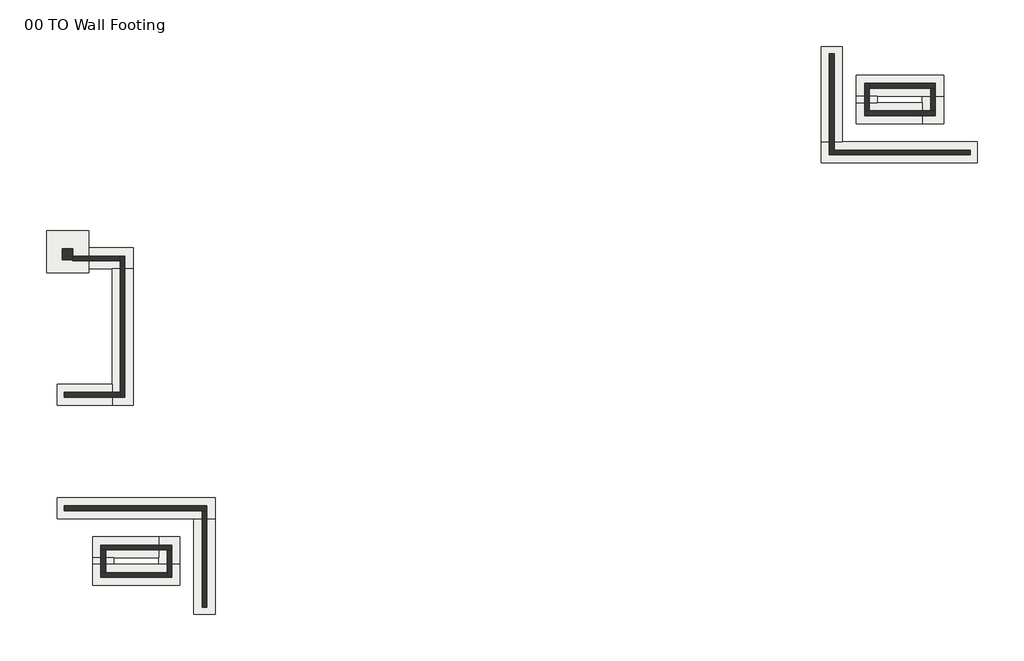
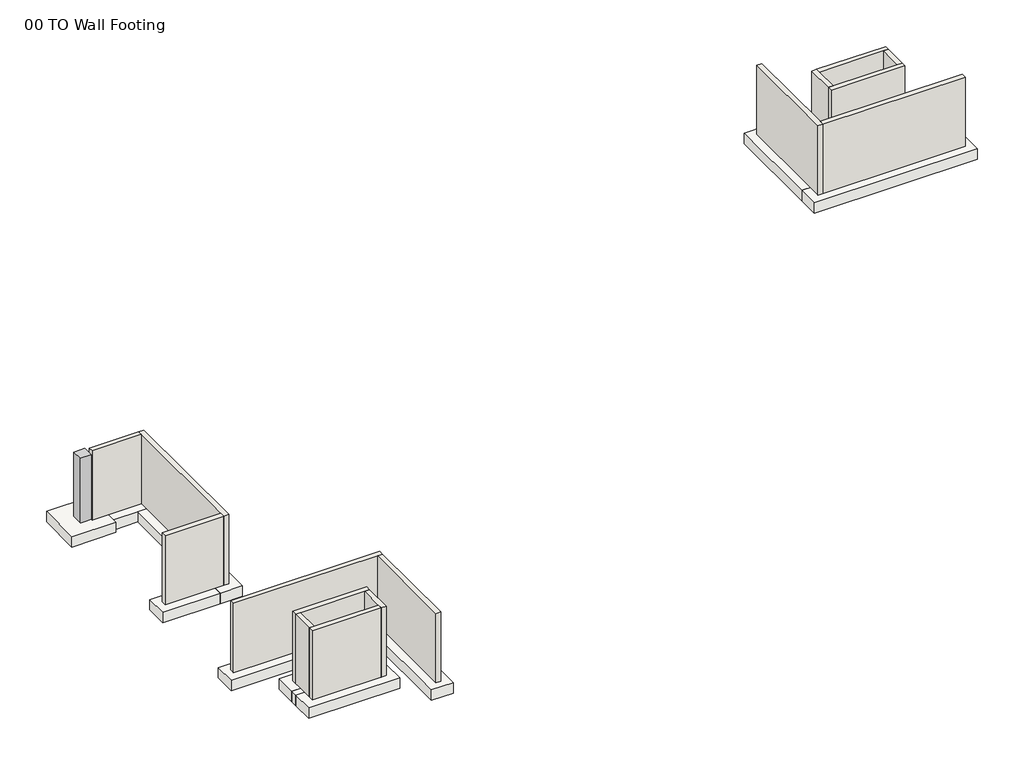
# One storey: 15 footings, 15 walls, 1 column, 1 slab.
"""IFC4 building model written with IfcOpenShell, lengths in millimetres."""

from ifc_helpers import new_model, si_unit, frame, origin, place, context, project, spatial, polyline, outline, extrude, faceted_brep, element, save

model = new_model("IFC4")

# Units and contexts
model_context = context("Model", 3, world=origin())
ifc_project = project(units=[si_unit("LENGTHUNIT", "METRE", prefix="MILLI")], contexts=[model_context])

# Site, building, storey
site = spatial("IfcSite", under=ifc_project)
building = spatial("IfcBuilding", under=site)
storey = spatial("IfcBuildingStorey", under=building, Name="00 TO Wall Footing", Elevation=-3048.0)

# Column
placement = place(None, origin())
element("IfcColumn", 1, ObjectType="Concrete-Rectangular-Column : CIP Column_C2_18\" x 18\"", at=placement, inside=storey, context=model_context, shape_type="Brep", body=[
    faceted_brep([(-19040.1273699, 588.7746638, -3048.0), (-19040.1273699, 283.9746638, -3048.0), (-19040.1273699, 131.5746638, -3048.0), (-19497.3273699, 131.5746638, -3048.0), (-19497.3273699, 588.7746638, -3048.0), (-19040.1273699, 588.7746638, -203.2), (-19040.1273699, 131.5746638, -203.2), (-19497.3273699, 131.5746638, -203.2), (-19497.3273699, 588.7746638, -203.2)], [[[0, 1, 2, 3, 4]], [[2, 1, 0, 5, 6]], [[3, 2, 6, 7]], [[4, 3, 7, 8]], [[0, 4, 8, 5]], [[6, 5, 8, 7]]]),
])

# Footings
element("IfcFooting", 2, ObjectType="Strip Footing_CIP_3' x 1'6''", at=placement, inside=storey, context=model_context, shape_type="Brep", body=[
    faceted_brep([(-16423.9273699, -274.8253362, -3048.0), (-16423.9273699, 639.5746638, -3048.0), (-18354.3273699, 639.5746638, -3048.0), (-18354.3273699, -274.8253362, -3048.0), (-17338.3273699, -274.8253362, -3048.0), (-16423.9273699, 639.5746638, -3505.2), (-18354.3273699, 639.5746638, -3505.2), (-16423.9273699, -274.8253362, -3505.2), (-17338.3273699, -274.8253362, -3505.2), (-18354.3273699, -274.8253362, -3505.2)], [[[0, 1, 2, 3, 4]], [[1, 5, 6, 2]], [[5, 7, 8, 9, 6]], [[7, 0, 4, 3, 9, 8]], [[3, 2, 6, 9]], [[1, 0, 7, 5]]]),
])
element("IfcFooting", 3, ObjectType="Strip Footing_CIP_3' x 1'6''", at=placement, inside=storey, context=model_context, shape_type="Brep", body=[
    faceted_brep([(-17338.3273699, -6193.0253362, -3048.0), (-16423.9273699, -6193.0253362, -3048.0), (-16423.9273699, -274.8253362, -3048.0), (-17338.3273699, -274.8253362, -3048.0), (-17338.3273699, -5278.6253362, -3048.0), (-16423.9273699, -6193.0253362, -3505.2), (-16423.9273699, -274.8253362, -3505.2), (-17338.3273699, -6193.0253362, -3505.2), (-17338.3273699, -5278.6253362, -3505.2), (-17338.3273699, -274.8253362, -3505.2)], [[[0, 1, 2, 3, 4]], [[1, 5, 6, 2]], [[5, 7, 8, 9, 6]], [[7, 0, 4, 3, 9, 8]], [[3, 2, 6, 9]], [[1, 0, 7, 5]]]),
])
element("IfcFooting", 4, ObjectType="Strip Footing_CIP_3' x 1'6''", at=placement, inside=storey, context=model_context, shape_type="SweptSolid", body=[
    extrude(outline(polyline([(-19725.9273699, -6193.0253362), (-19725.9273699, -5278.6253362), (-17338.3273699, -5278.6253362), (-17338.3273699, -6193.0253362), (-19725.9273699, -6193.0253362)])), frame((0.0, 0.0, -3505.2), z_axis=(0.0, 0.0, 1.0), x_axis=(1.0, 0.0, 0.0)), (0.0, 0.0, 1.0), 457.2),
])
element("IfcFooting", 5, ObjectType="Strip Footing_CIP_3' x 1'6''", at=placement, inside=storey, context=model_context, shape_type="Brep", body=[
    faceted_brep([(-19725.9273699, -11120.6253362, -3048.0), (-19725.9273699, -10206.2253362, -3048.0), (-19725.9273699, -10206.2253362, -3505.2), (-19725.9273699, -11120.6253362, -3505.2), (-13782.3273699, -11120.6253362, -3048.0), (-12867.9273699, -11120.6253362, -3048.0), (-12867.9273699, -10206.2253362, -3048.0), (-12867.9273699, -10206.2253362, -3505.2), (-12867.9273699, -11120.6253362, -3505.2), (-13782.3273699, -11120.6253362, -3505.2)], [[[0, 1, 2, 3]], [[0, 4, 5, 6, 1]], [[2, 1, 6, 7]], [[3, 2, 7, 8, 9]], [[0, 3, 9, 8, 5, 4]], [[6, 5, 8, 7]]]),
])
element("IfcFooting", 6, ObjectType="Strip Footing_CIP_3' x 1'6''", at=placement, inside=storey, context=model_context, shape_type="SweptSolid", body=[
    extrude(outline(polyline([(-12867.9273699, -15260.8253362), (-13782.3273699, -15260.8253362), (-13782.3273699, -11120.6253362), (-12867.9273699, -11120.6253362), (-12867.9273699, -15260.8253362)])), frame((0.0, 0.0, -3505.2), z_axis=(0.0, 0.0, 1.0), x_axis=(1.0, 0.0, 0.0)), (0.0, 0.0, 1.0), 457.2),
])
element("IfcFooting", 7, ObjectType="Strip Footing_CIP_3' x 1'6''", at=placement, inside=storey, context=model_context, shape_type="Brep", body=[
    faceted_brep([(-18176.5273699, -14016.2253362, -3048.0), (-14391.9273699, -14016.2253362, -3048.0), (-14391.9273699, -13101.8253362, -3048.0), (-15306.3273699, -13101.8253362, -3048.0), (-17262.1273699, -13101.8253362, -3048.0), (-18176.5273699, -13101.8253362, -3048.0), (-18176.5273699, -13101.8253362, -3505.2), (-14391.9273699, -13101.8253362, -3505.2), (-15306.3273699, -13101.8253362, -3505.2), (-17262.1273699, -13101.8253362, -3505.2), (-18176.5273699, -14016.2253362, -3505.2), (-14391.9273699, -14016.2253362, -3505.2)], [[[0, 1, 2, 3, 4, 5]], [[6, 5, 4, 3, 2, 7, 8, 9]], [[10, 6, 9, 8, 7, 11]], [[0, 10, 11, 1]], [[2, 1, 11, 7]], [[0, 5, 6, 10]]]),
])
element("IfcFooting", 8, ObjectType="Strip Footing_CIP_3' x 1'6''", at=placement, inside=storey, context=model_context, shape_type="Brep", body=[
    faceted_brep([(-14391.9273699, -11908.0253362, -3048.0), (-15306.3273699, -11908.0253362, -3048.0), (-15306.3273699, -12822.4253362, -3048.0), (-15306.3273699, -13101.8253362, -3048.0), (-14391.9273699, -13101.8253362, -3048.0), (-15306.3273699, -11908.0253362, -3505.2), (-15306.3273699, -12822.4253362, -3505.2), (-15306.3273699, -13101.8253362, -3505.2), (-14391.9273699, -11908.0253362, -3505.2), (-14391.9273699, -13101.8253362, -3505.2)], [[[0, 1, 2, 3, 4]], [[1, 5, 6, 7, 3, 2]], [[5, 8, 9, 7, 6]], [[8, 0, 4, 9]], [[4, 3, 7, 9]], [[1, 0, 8, 5]]]),
])
element("IfcFooting", 9, ObjectType="Strip Footing_CIP_3' x 1'6''", at=placement, inside=storey, context=model_context, shape_type="Brep", body=[
    faceted_brep([(-18176.5273699, -11908.0253362, -3048.0), (-18176.5273699, -12822.4253362, -3048.0), (-17262.1273699, -12822.4253362, -3048.0), (-15306.3273699, -12822.4253362, -3048.0), (-15306.3273699, -11908.0253362, -3048.0), (-18176.5273699, -12822.4253362, -3505.2), (-17262.1273699, -12822.4253362, -3505.2), (-15306.3273699, -12822.4253362, -3505.2), (-18176.5273699, -11908.0253362, -3505.2), (-15306.3273699, -11908.0253362, -3505.2)], [[[0, 1, 2, 3, 4]], [[1, 5, 6, 7, 3, 2]], [[5, 8, 9, 7, 6]], [[8, 0, 4, 9]], [[4, 3, 7, 9]], [[1, 0, 8, 5]]]),
])
element("IfcFooting", 10, ObjectType="Strip Footing_CIP_3' x 1'6''", at=placement, inside=storey, context=model_context, shape_type="SweptSolid", body=[
    extrude(outline(polyline([(-17262.1273699, -13101.8253362), (-18176.5273699, -13101.8253362), (-18176.5273699, -12822.4253362), (-17262.1273699, -12822.4253362), (-17262.1273699, -13101.8253362)])), frame((0.0, 0.0, -3505.2), z_axis=(0.0, 0.0, 1.0), x_axis=(1.0, 0.0, 0.0)), (0.0, 0.0, 1.0), 457.2),
])
element("IfcFooting", 11, ObjectType="Strip Footing_CIP_3' x 1'6''", at=placement, inside=storey, context=model_context, shape_type="Brep", body=[
    faceted_brep([(20228.2726301, 5236.9746638, -3048.0), (20228.2726301, 4322.5746638, -3048.0), (20228.2726301, 4322.5746638, -3505.2), (20228.2726301, 5236.9746638, -3505.2), (13446.4726301, 4322.5746638, -3048.0), (14360.8726301, 5236.9746638, -3048.0), (13446.4726301, 5236.9746638, -3048.0), (13446.4726301, 5236.9746638, -3505.2), (14360.8726301, 5236.9746638, -3505.2), (13446.4726301, 4322.5746638, -3505.2)], [[[0, 1, 2, 3]], [[4, 1, 0, 5, 6]], [[7, 6, 5, 0, 3, 8]], [[9, 7, 8, 3, 2]], [[4, 9, 2, 1]], [[4, 6, 7, 9]]]),
])
element("IfcFooting", 12, ObjectType="Strip Footing_CIP_3' x 1'6''", at=placement, inside=storey, context=model_context, shape_type="SweptSolid", body=[
    extrude(outline(polyline([(13446.4726301, 9377.1746638), (14360.8726301, 9377.1746638), (14360.8726301, 5236.9746638), (13446.4726301, 5236.9746638), (13446.4726301, 9377.1746638)])), frame((0.0, 0.0, -3505.2), z_axis=(0.0, 0.0, 1.0), x_axis=(1.0, 0.0, 0.0)), (0.0, 0.0, 1.0), 457.2),
])
element("IfcFooting", 13, ObjectType="Strip Footing_CIP_3' x 1'6''", at=placement, inside=storey, context=model_context, shape_type="Brep", body=[
    faceted_brep([(18755.0726301, 8132.5746638, -3048.0), (14970.4726301, 8132.5746638, -3048.0), (14970.4726301, 7218.1746638, -3048.0), (15884.8726301, 7218.1746638, -3048.0), (17840.6726301, 7218.1746638, -3048.0), (18755.0726301, 7218.1746638, -3048.0), (18755.0726301, 7218.1746638, -3505.2), (14970.4726301, 7218.1746638, -3505.2), (15884.8726301, 7218.1746638, -3505.2), (17840.6726301, 7218.1746638, -3505.2), (18755.0726301, 8132.5746638, -3505.2), (14970.4726301, 8132.5746638, -3505.2)], [[[0, 1, 2, 3, 4, 5]], [[6, 5, 4, 3, 2, 7, 8, 9]], [[10, 6, 9, 8, 7, 11]], [[0, 10, 11, 1]], [[0, 5, 6, 10]], [[2, 1, 11, 7]]]),
])
element("IfcFooting", 14, ObjectType="Strip Footing_CIP_3' x 1'6''", at=placement, inside=storey, context=model_context, shape_type="Brep", body=[
    faceted_brep([(17840.6726301, 6024.3746638, -3048.0), (18755.0726301, 6024.3746638, -3048.0), (18755.0726301, 7218.1746638, -3048.0), (17840.6726301, 7218.1746638, -3048.0), (17840.6726301, 6938.7746638, -3048.0), (17840.6726301, 6024.3746638, -3505.2), (17840.6726301, 7218.1746638, -3505.2), (17840.6726301, 6938.7746638, -3505.2), (18755.0726301, 6024.3746638, -3505.2), (18755.0726301, 7218.1746638, -3505.2)], [[[0, 1, 2, 3, 4]], [[5, 0, 4, 3, 6, 7]], [[8, 5, 7, 6, 9]], [[1, 8, 9, 2]], [[3, 2, 9, 6]], [[1, 0, 5, 8]]]),
])
element("IfcFooting", 15, ObjectType="Strip Footing_CIP_3' x 1'6''", at=placement, inside=storey, context=model_context, shape_type="Brep", body=[
    faceted_brep([(14970.4726301, 6938.7746638, -3048.0), (14970.4726301, 6024.3746638, -3048.0), (17840.6726301, 6024.3746638, -3048.0), (17840.6726301, 6938.7746638, -3048.0), (15884.8726301, 6938.7746638, -3048.0), (14970.4726301, 6938.7746638, -3505.2), (17840.6726301, 6938.7746638, -3505.2), (15884.8726301, 6938.7746638, -3505.2), (14970.4726301, 6024.3746638, -3505.2), (17840.6726301, 6024.3746638, -3505.2)], [[[0, 1, 2, 3, 4]], [[5, 0, 4, 3, 6, 7]], [[8, 5, 7, 6, 9]], [[1, 8, 9, 2]], [[3, 2, 9, 6]], [[1, 0, 5, 8]]]),
])
element("IfcFooting", 16, ObjectType="Strip Footing_CIP_3' x 1'6''", at=placement, inside=storey, context=model_context, shape_type="SweptSolid", body=[
    extrude(outline(polyline([(14970.4726301, 7218.1746638), (15884.8726301, 7218.1746638), (15884.8726301, 6938.7746638), (14970.4726301, 6938.7746638), (14970.4726301, 7218.1746638)])), frame((0.0, 0.0, -3505.2), z_axis=(0.0, 0.0, 1.0), x_axis=(1.0, 0.0, 0.0)), (0.0, 0.0, 1.0), 457.2),
])

# Slab
element("IfcSlab", 17, ObjectType="Footing-Rectangular : Spread Footing_F1", at=placement, inside=storey, context=model_context, shape_type="Brep", body=[
    faceted_brep([(-18354.3273699, 1376.1746638, -3048.0), (-20183.1273699, 1376.1746638, -3048.0), (-20183.1273699, -452.6253362, -3048.0), (-18354.3273699, -452.6253362, -3048.0), (-18354.3273699, -274.8253362, -3048.0), (-18354.3273699, 639.5746638, -3048.0), (-18354.3273699, 1376.1746638, -3505.2), (-18354.3273699, 639.5746638, -3505.2), (-18354.3273699, -274.8253362, -3505.2), (-18354.3273699, -452.6253362, -3505.2), (-20183.1273699, -452.6253362, -3505.2), (-20183.1273699, 1376.1746638, -3505.2)], [[[0, 1, 2, 3, 4, 5]], [[6, 7, 8, 9, 10, 11]], [[1, 0, 6, 11]], [[2, 1, 11, 10]], [[3, 2, 10, 9]], [[0, 5, 4, 3, 9, 8, 7, 6]]]),
])

# Walls
element("IfcWall", 18, ObjectType="Wall Foundation_8\" CIP", at=placement, inside=storey, context=model_context, shape_type="Brep", body=[
    faceted_brep([(-19040.1273699, 80.7746638, -3048.0), (-16982.7273699, 80.7746638, -3048.0), (-16982.7273699, 80.7746638, 0.0), (-19040.1273699, 80.7746638, 0.0), (-19040.1273699, 283.9746638, -3048.0), (-19040.1273699, 283.9746638, 0.0), (-16982.7273699, 283.9746638, 0.0), (-16982.7273699, 283.9746638, -3048.0), (-19040.1273699, 131.5746638, -3048.0)], [[[0, 1, 2, 3]], [[4, 5, 6, 7]], [[1, 0, 8, 4, 7]], [[3, 2, 6, 5]], [[0, 3, 5, 4, 8]], [[2, 1, 7, 6]]]),
])
element("IfcWall", 19, ObjectType="Wall Foundation_8\" CIP", at=placement, inside=storey, context=model_context, shape_type="Brep", body=[
    faceted_brep([(-16982.7273699, 283.9746638, -3048.0), (-16982.7273699, 80.7746638, -3048.0), (-16982.7273699, -5634.2253362, -3048.0), (-16982.7273699, -5837.4253362, -3048.0), (-16982.7273699, -5837.4253362, 0.0), (-16982.7273699, -5634.2253362, 0.0), (-16982.7273699, 80.7746638, 0.0), (-16982.7273699, 283.9746638, 0.0), (-16779.5273699, 283.9746638, -3048.0), (-16779.5273699, 283.9746638, 0.0), (-16779.5273699, -5837.4253362, 0.0), (-16779.5273699, -5837.4253362, -3048.0)], [[[0, 1, 2, 3, 4, 5, 6, 7]], [[8, 9, 10, 11]], [[3, 2, 1, 0, 8, 11]], [[7, 6, 5, 4, 10, 9]], [[4, 3, 11, 10]], [[0, 7, 9, 8]]]),
])
element("IfcWall", 20, ObjectType="Wall Foundation_8\" CIP", at=placement, inside=storey, context=model_context, shape_type="SweptSolid", body=[
    extrude(outline(polyline([(-19421.1273699, -5634.2253362), (-16982.7273699, -5634.2253362), (-16982.7273699, -5837.4253362), (-19421.1273699, -5837.4253362), (-19421.1273699, -5634.2253362)])), frame((0.0, 0.0, -3048.0), z_axis=(0.0, 0.0, 1.0), x_axis=(1.0, 0.0, 0.0)), (0.0, 0.0, 1.0), 3048.0),
])
element("IfcWall", 21, ObjectType="Wall Foundation_8\" CIP", at=placement, inside=storey, context=model_context, shape_type="Brep", body=[
    faceted_brep([(-19421.1273699, -10765.0253362, -3048.0), (-13426.7273699, -10765.0253362, -3048.0), (-13223.5273699, -10765.0253362, -3048.0), (-13223.5273699, -10765.0253362, 0.0), (-13426.7273699, -10765.0253362, 0.0), (-19421.1273699, -10765.0253362, 0.0), (-19421.1273699, -10561.8253362, -3048.0), (-19421.1273699, -10561.8253362, 0.0), (-13223.5273699, -10561.8253362, 0.0), (-13223.5273699, -10561.8253362, -3048.0)], [[[0, 1, 2, 3, 4, 5]], [[6, 7, 8, 9]], [[2, 1, 0, 6, 9]], [[5, 4, 3, 8, 7]], [[0, 5, 7, 6]], [[3, 2, 9, 8]]]),
])
element("IfcWall", 22, ObjectType="Wall Foundation_8\" CIP", at=placement, inside=storey, context=model_context, shape_type="SweptSolid", body=[
    extrude(outline(polyline([(-13223.5273699, -10765.0253362), (-13223.5273699, -14956.0253362), (-13426.7273699, -14956.0253362), (-13426.7273699, -10765.0253362), (-13223.5273699, -10765.0253362)])), frame((0.0, 0.0, -3048.0), z_axis=(0.0, 0.0, 1.0), x_axis=(1.0, 0.0, 0.0)), (0.0, 0.0, 1.0), 3048.0),
])
element("IfcWall", 23, ObjectType="Wall Foundation_8\" CIP", at=placement, inside=storey, context=model_context, shape_type="Brep", body=[
    faceted_brep([(-14747.5273699, -12263.6253362, -3048.0), (-17820.9273699, -12263.6253362, -3048.0), (-17820.9273699, -12263.6253362, 0.0), (-14747.5273699, -12263.6253362, 0.0), (-14747.5273699, -12466.8253362, -3048.0), (-14747.5273699, -12466.8253362, 0.0), (-14950.7273699, -12466.8253362, 0.0), (-17617.7273699, -12466.8253362, 0.0), (-17820.9273699, -12466.8253362, 0.0), (-17820.9273699, -12466.8253362, -3048.0), (-17617.7273699, -12466.8253362, -3048.0), (-14950.7273699, -12466.8253362, -3048.0)], [[[0, 1, 2, 3]], [[4, 5, 6, 7, 8, 9, 10, 11]], [[1, 0, 4, 11, 10, 9]], [[3, 2, 8, 7, 6, 5]], [[0, 3, 5, 4]], [[2, 1, 9, 8]]]),
])
element("IfcWall", 24, ObjectType="Wall Foundation_8\" CIP", at=placement, inside=storey, context=model_context, shape_type="Brep", body=[
    faceted_brep([(-14747.5273699, -13660.6253362, -3048.0), (-14747.5273699, -12466.8253362, -3048.0), (-14747.5273699, -12466.8253362, 0.0), (-14747.5273699, -13660.6253362, 0.0), (-14950.7273699, -13660.6253362, -3048.0), (-14950.7273699, -13660.6253362, 0.0), (-14950.7273699, -13457.4253362, 0.0), (-14950.7273699, -12466.8253362, 0.0), (-14950.7273699, -12466.8253362, -3048.0), (-14950.7273699, -13457.4253362, -3048.0)], [[[0, 1, 2, 3]], [[4, 5, 6, 7, 8, 9]], [[1, 0, 4, 9, 8]], [[3, 2, 7, 6, 5]], [[2, 1, 8, 7]], [[0, 3, 5, 4]]]),
])
element("IfcWall", 25, ObjectType="Wall Foundation_8\" CIP", at=placement, inside=storey, context=model_context, shape_type="Brep", body=[
    faceted_brep([(-17820.9273699, -13660.6253362, -3048.0), (-14950.7273699, -13660.6253362, -3048.0), (-14950.7273699, -13660.6253362, 0.0), (-17820.9273699, -13660.6253362, 0.0), (-17820.9273699, -13457.4253362, -3048.0), (-17820.9273699, -13457.4253362, 0.0), (-17617.7273699, -13457.4253362, 0.0), (-14950.7273699, -13457.4253362, 0.0), (-14950.7273699, -13457.4253362, -3048.0), (-17617.7273699, -13457.4253362, -3048.0)], [[[0, 1, 2, 3]], [[4, 5, 6, 7, 8, 9]], [[1, 0, 4, 9, 8]], [[3, 2, 7, 6, 5]], [[2, 1, 8, 7]], [[0, 3, 5, 4]]]),
])
element("IfcWall", 26, ObjectType="Wall Foundation_8\" CIP", at=placement, inside=storey, context=model_context, shape_type="SweptSolid", body=[
    extrude(outline(polyline([(-17820.9273699, -13457.4253362), (-17820.9273699, -12466.8253362), (-17617.7273699, -12466.8253362), (-17617.7273699, -13457.4253362), (-17820.9273699, -13457.4253362)])), frame((0.0, 0.0, -3048.0), z_axis=(0.0, 0.0, 1.0), x_axis=(1.0, 0.0, 0.0)), (0.0, 0.0, 1.0), 3048.0),
])
element("IfcWall", 27, ObjectType="Wall Foundation_8\" CIP", at=placement, inside=storey, context=model_context, shape_type="Brep", body=[
    faceted_brep([(13802.0726301, 9072.3746638, -3048.0), (13802.0726301, 4678.1746638, -3048.0), (13802.0726301, 4678.1746638, 0.0), (13802.0726301, 9072.3746638, 0.0), (14005.2726301, 9072.3746638, -3048.0), (14005.2726301, 9072.3746638, 0.0), (14005.2726301, 4881.3746638, 0.0), (14005.2726301, 4678.1746638, 0.0), (14005.2726301, 4678.1746638, -3048.0), (14005.2726301, 4881.3746638, -3048.0)], [[[0, 1, 2, 3]], [[4, 5, 6, 7, 8, 9]], [[1, 0, 4, 9, 8]], [[3, 2, 7, 6, 5]], [[0, 3, 5, 4]], [[2, 1, 8, 7]]]),
])
element("IfcWall", 28, ObjectType="Wall Foundation_8\" CIP", at=placement, inside=storey, context=model_context, shape_type="SweptSolid", body=[
    extrude(outline(polyline([(19923.4726301, 4678.1746638), (14005.2726301, 4678.1746638), (14005.2726301, 4881.3746638), (19923.4726301, 4881.3746638), (19923.4726301, 4678.1746638)])), frame((0.0, 0.0, -3048.0), z_axis=(0.0, 0.0, 1.0), x_axis=(1.0, 0.0, 0.0)), (0.0, 0.0, 1.0), 3048.0),
])
element("IfcWall", 29, ObjectType="Wall Foundation_8\" CIP", at=placement, inside=storey, context=model_context, shape_type="Brep", body=[
    faceted_brep([(15326.0726301, 6379.9746638, -3048.0), (18399.4726301, 6379.9746638, -3048.0), (18399.4726301, 6379.9746638, 0.0), (15326.0726301, 6379.9746638, 0.0), (15326.0726301, 6583.1746638, -3048.0), (15326.0726301, 6583.1746638, 0.0), (15529.2726301, 6583.1746638, 0.0), (18196.2726301, 6583.1746638, 0.0), (18399.4726301, 6583.1746638, 0.0), (18399.4726301, 6583.1746638, -3048.0), (18196.2726301, 6583.1746638, -3048.0), (15529.2726301, 6583.1746638, -3048.0)], [[[0, 1, 2, 3]], [[4, 5, 6, 7, 8, 9, 10, 11]], [[1, 0, 4, 11, 10, 9]], [[3, 2, 8, 7, 6, 5]], [[0, 3, 5, 4]], [[2, 1, 9, 8]]]),
])
element("IfcWall", 30, ObjectType="Wall Foundation_8\" CIP", at=placement, inside=storey, context=model_context, shape_type="Brep", body=[
    faceted_brep([(15326.0726301, 7776.9746638, -3048.0), (15326.0726301, 6583.1746638, -3048.0), (15326.0726301, 6583.1746638, 0.0), (15326.0726301, 7776.9746638, 0.0), (15529.2726301, 7776.9746638, -3048.0), (15529.2726301, 7776.9746638, 0.0), (15529.2726301, 7573.7746638, 0.0), (15529.2726301, 6583.1746638, 0.0), (15529.2726301, 6583.1746638, -3048.0), (15529.2726301, 7573.7746638, -3048.0)], [[[0, 1, 2, 3]], [[4, 5, 6, 7, 8, 9]], [[1, 0, 4, 9, 8]], [[3, 2, 7, 6, 5]], [[2, 1, 8, 7]], [[0, 3, 5, 4]]]),
])
element("IfcWall", 31, ObjectType="Wall Foundation_8\" CIP", at=placement, inside=storey, context=model_context, shape_type="Brep", body=[
    faceted_brep([(18399.4726301, 7776.9746638, -3048.0), (15529.2726301, 7776.9746638, -3048.0), (15529.2726301, 7776.9746638, 0.0), (18399.4726301, 7776.9746638, 0.0), (18399.4726301, 7573.7746638, -3048.0), (18399.4726301, 7573.7746638, 0.0), (18196.2726301, 7573.7746638, 0.0), (15529.2726301, 7573.7746638, 0.0), (15529.2726301, 7573.7746638, -3048.0), (18196.2726301, 7573.7746638, -3048.0)], [[[0, 1, 2, 3]], [[4, 5, 6, 7, 8, 9]], [[1, 0, 4, 9, 8]], [[3, 2, 7, 6, 5]], [[2, 1, 8, 7]], [[0, 3, 5, 4]]]),
])
element("IfcWall", 32, ObjectType="Wall Foundation_8\" CIP", at=placement, inside=storey, context=model_context, shape_type="SweptSolid", body=[
    extrude(outline(polyline([(18399.4726301, 7573.7746638), (18399.4726301, 6583.1746638), (18196.2726301, 6583.1746638), (18196.2726301, 7573.7746638), (18399.4726301, 7573.7746638)])), frame((0.0, 0.0, -3048.0), z_axis=(0.0, 0.0, 1.0), x_axis=(1.0, 0.0, 0.0)), (0.0, 0.0, 1.0), 3048.0),
])

save(model, "model.ifc")
